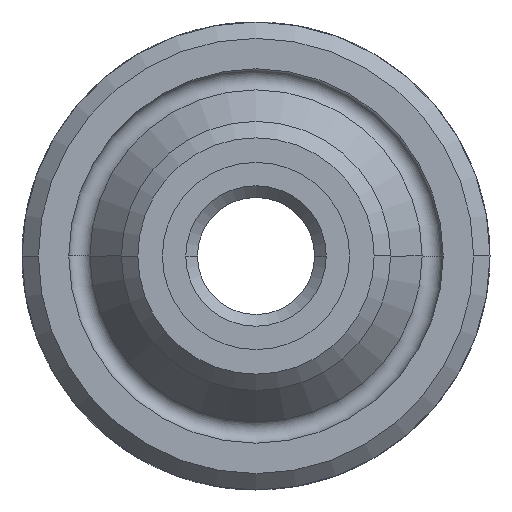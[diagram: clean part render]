
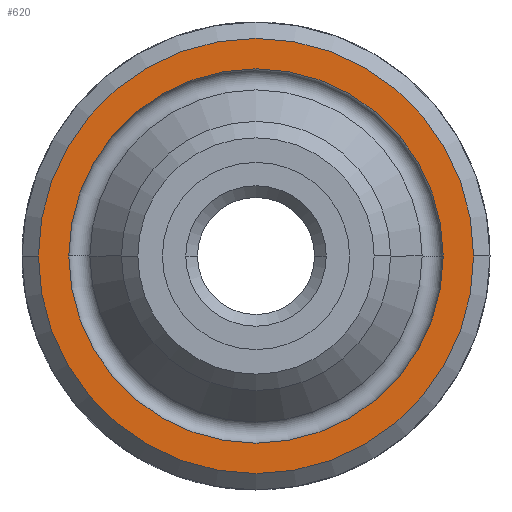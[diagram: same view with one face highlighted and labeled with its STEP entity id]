
A CAD part, left-side view. The second image highlights one B-rep face of the part: STEP entity #620.
In plain terms, the highlighted planar face has unit normal (-1, 0, 0).
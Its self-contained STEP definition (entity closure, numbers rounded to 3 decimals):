
#72 = AXIS2_PLACEMENT_3D ( 'NONE', #2254, #140, #2681 ) ;
#90 = DIRECTION ( 'NONE',  ( 0., -1., 0. ) ) ;
#140 = DIRECTION ( 'NONE',  ( -1., 0., 0. ) ) ;
#142 = CARTESIAN_POINT ( 'NONE',  ( 6., 8., 0. ) ) ;
#167 = CARTESIAN_POINT ( 'NONE',  ( 6., 8., 0. ) ) ;
#338 = AXIS2_PLACEMENT_3D ( 'NONE', #142, #1010, #1846 ) ;
#348 = CARTESIAN_POINT ( 'NONE',  ( 6., 0., 0. ) ) ;
#445 = EDGE_LOOP ( 'NONE', ( #2214, #1180 ) ) ;
#558 = PLANE ( 'NONE',  #338 ) ;
#579 = EDGE_CURVE ( 'NONE', #2600, #2107, #2397, .T. ) ;
#610 = CIRCLE ( 'NONE', #1588, 8. ) ;
#620 = ADVANCED_FACE ( 'PLANAR_4', ( #1633, #941 ), #558, .F. ) ;
#769 = EDGE_CURVE ( 'NONE', #2068, #2692, #610, .T. ) ;
#888 = DIRECTION ( 'NONE',  ( -1., 0., 0. ) ) ;
#941 = FACE_OUTER_BOUND ( 'NONE', #1834, .T. ) ;
#949 = AXIS2_PLACEMENT_3D ( 'NONE', #348, #1358, #2623 ) ;
#951 = AXIS2_PLACEMENT_3D ( 'NONE', #1411, #2263, #90 ) ;
#1010 = DIRECTION ( 'NONE',  ( 1., 0., 0. ) ) ;
#1080 = CARTESIAN_POINT ( 'NONE',  ( 6., -9.3, 0. ) ) ;
#1086 = EDGE_CURVE ( 'NONE', #2107, #2600, #1253, .T. ) ;
#1163 = CARTESIAN_POINT ( 'NONE',  ( 6., -8., 0. ) ) ;
#1180 = ORIENTED_EDGE ( 'NONE', *, *, #769, .F. ) ;
#1253 = CIRCLE ( 'NONE', #951, 9.3 ) ;
#1358 = DIRECTION ( 'NONE',  ( -1., 0., 0. ) ) ;
#1411 = CARTESIAN_POINT ( 'NONE',  ( 6., 0., 0. ) ) ;
#1588 = AXIS2_PLACEMENT_3D ( 'NONE', #1987, #888, #1735 ) ;
#1633 = FACE_BOUND ( 'NONE', #445, .T. ) ;
#1670 = EDGE_CURVE ( 'NONE', #2692, #2068, #1850, .T. ) ;
#1705 = CARTESIAN_POINT ( 'NONE',  ( 6., 9.3, 0. ) ) ;
#1735 = DIRECTION ( 'NONE',  ( 0., -1., 0. ) ) ;
#1834 = EDGE_LOOP ( 'NONE', ( #2463, #2060 ) ) ;
#1846 = DIRECTION ( 'NONE',  ( 0., 1., 0. ) ) ;
#1850 = CIRCLE ( 'NONE', #72, 8. ) ;
#1987 = CARTESIAN_POINT ( 'NONE',  ( 6., 0., 0. ) ) ;
#2060 = ORIENTED_EDGE ( 'NONE', *, *, #1086, .T. ) ;
#2068 = VERTEX_POINT ( 'NONE', #167 ) ;
#2107 = VERTEX_POINT ( 'NONE', #1080 ) ;
#2214 = ORIENTED_EDGE ( 'NONE', *, *, #1670, .F. ) ;
#2254 = CARTESIAN_POINT ( 'NONE',  ( 6., 0., 0. ) ) ;
#2263 = DIRECTION ( 'NONE',  ( -1., 0., 0. ) ) ;
#2397 = CIRCLE ( 'NONE', #949, 9.3 ) ;
#2463 = ORIENTED_EDGE ( 'NONE', *, *, #579, .T. ) ;
#2600 = VERTEX_POINT ( 'NONE', #1705 ) ;
#2623 = DIRECTION ( 'NONE',  ( 0., -1., 0. ) ) ;
#2681 = DIRECTION ( 'NONE',  ( 0., -1., 0. ) ) ;
#2692 = VERTEX_POINT ( 'NONE', #1163 ) ;
